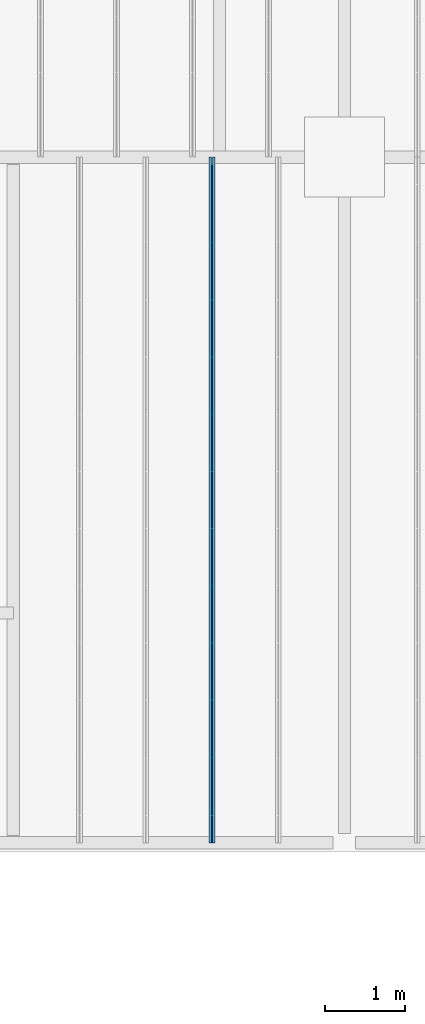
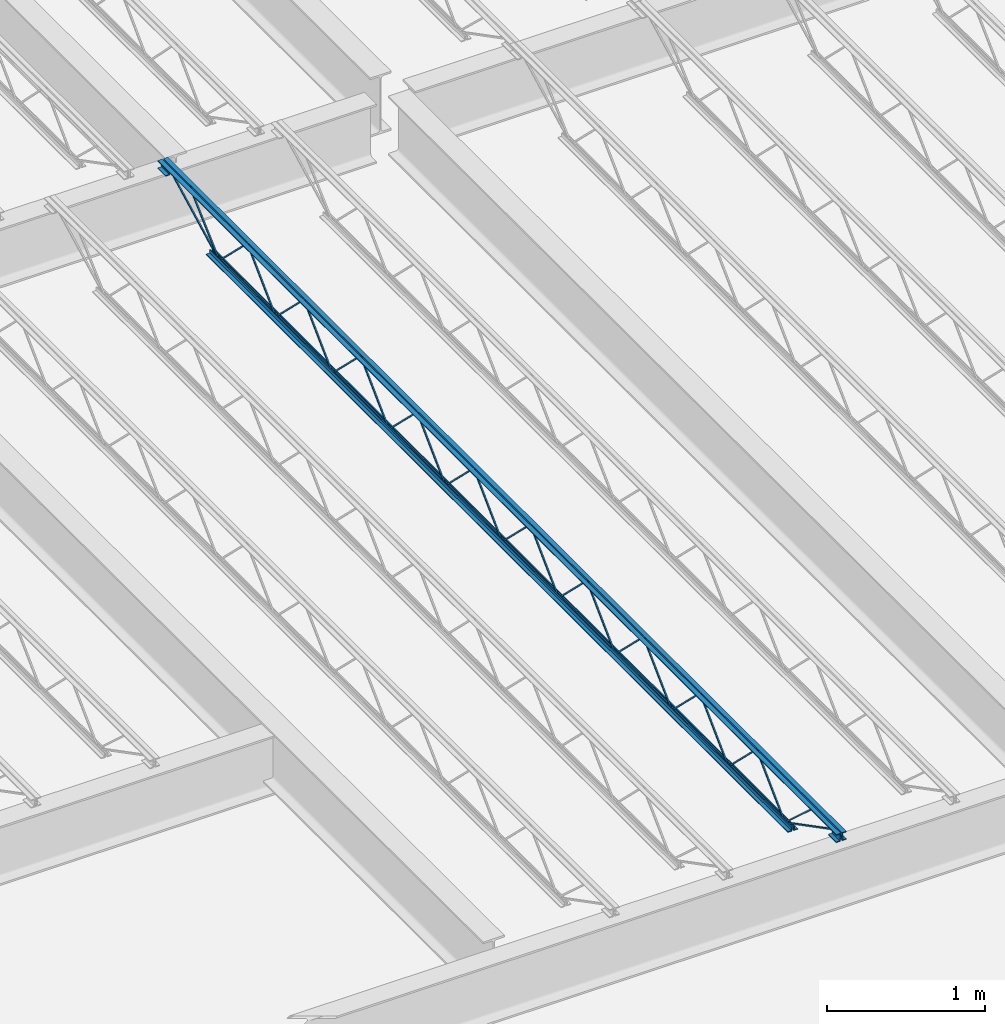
# One storey, part 30 of 75: 1 beam.
"""IFC2X3 building model written with IfcOpenShell, lengths in metres."""

from ifc_helpers import new_model, entity, si_unit, converted_unit, frame, origin, place, context, project, spatial, face_set, surface_model, element, save


model = new_model("IFC2X3")

# Units and contexts
model_context = context("Model", 3, precision=1e-09, world=origin())
plan_context = context("Plan", 3, precision=1e-09, world=origin())
ifc_project = project(units=[si_unit("LENGTHUNIT", "METRE"), si_unit("AREAUNIT", "SQUARE_METRE"), si_unit("VOLUMEUNIT", "CUBIC_METRE"), converted_unit("PLANEANGLEUNIT", "DEGREE", entity("IfcRatioMeasure", 0.01745329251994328), si_unit("PLANEANGLEUNIT", "RADIAN"), dimensions=[0, 0, 0, 0, 0, 0, 0]), si_unit("TIMEUNIT", "SECOND")], contexts=[model_context, plan_context])

# Site, building, storey
site_placement = place(None, origin())
site = spatial("IfcSite", under=ifc_project, at=site_placement, Name="Default", CompositionType="ELEMENT")
building_placement = place(site_placement, origin())
building = spatial("IfcBuilding", under=site, at=building_placement, CompositionType="ELEMENT")
storey_placement = place(building_placement, origin())
storey = spatial("IfcBuildingStorey", under=building, at=storey_placement, Name="First Floor", CompositionType="ELEMENT", Elevation=-3.531500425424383e-13)

# Beam
beam_placement = place(storey_placement, frame((-8.971973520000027, 10.03999999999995, 4.112000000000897)))
element("IfcBeam", 1, at=beam_placement, inside=storey, Name="M_K-Series Bar Joist-Rod Web:14K1:14K1", ObjectType="M_K-Series Bar Joist-Rod Web:14K1", context=model_context, shape_type="SurfaceModel", body=[
    surface_model("IfcFaceBasedSurfaceModel", [(0.0415000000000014, 6.428799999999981, 0.01110000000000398), (0.03200000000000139, 6.428799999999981, 0.01110000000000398), (0.03200000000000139, 6.428799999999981, 0.001600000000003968), (0.0415000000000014, 6.428799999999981, 0.001600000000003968), (0.03200000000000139, 6.430038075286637, 0.01110000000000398), (0.0415000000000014, 6.430038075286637, 0.01110000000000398), (0.03200000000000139, 6.433911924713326, 0.001600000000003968), (0.03200000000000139, 6.784861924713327, 0.3449000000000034), (0.03200000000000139, 6.78733807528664, 0.3449000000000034), (0.03200000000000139, 7.138288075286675, 0.001600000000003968), (0.03200000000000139, 7.143399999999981, 0.001600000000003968), (0.03200000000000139, 7.143399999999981, 0.01110000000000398), (0.03200000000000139, 7.142161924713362, 0.01110000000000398), (0.03200000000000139, 6.791211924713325, 0.3544000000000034), (0.03200000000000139, 6.780988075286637, 0.3544000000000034), (0.0415000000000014, 6.433911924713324, 0.001600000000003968), (0.0415000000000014, 6.784861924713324, 0.3449000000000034), (0.0415000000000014, 6.787338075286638, 0.3449000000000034), (0.0415000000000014, 7.138288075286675, 0.001600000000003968), (0.0415000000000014, 7.143399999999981, 0.001600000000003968), (0.0415000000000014, 7.143399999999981, 0.01110000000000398), (0.0415000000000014, 7.142161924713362, 0.01110000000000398), (0.0415000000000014, 6.791211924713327, 0.3544000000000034), (0.0415000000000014, 6.780988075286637, 0.3544000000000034), (0.0415000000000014, 5.714199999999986, 0.01110000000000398), (0.03200000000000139, 5.714199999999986, 0.01110000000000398), (0.03200000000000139, 5.714199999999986, 0.001600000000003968), (0.0415000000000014, 5.714199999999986, 0.001600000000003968), (0.03200000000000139, 5.715438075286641, 0.01110000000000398), (0.0415000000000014, 5.715438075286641, 0.01110000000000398), (0.03200000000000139, 5.719311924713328, 0.001600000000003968), (0.03200000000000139, 6.070261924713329, 0.3449000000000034), (0.03200000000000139, 6.072738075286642, 0.3449000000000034), (0.03200000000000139, 6.423688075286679, 0.001600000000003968), (0.03200000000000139, 6.428799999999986, 0.001600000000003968), (0.03200000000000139, 6.428799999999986, 0.01110000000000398), (0.03200000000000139, 6.427561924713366, 0.01110000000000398), (0.03200000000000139, 6.076611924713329, 0.3544000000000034), (0.03200000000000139, 6.066388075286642, 0.3544000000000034), (0.0415000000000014, 5.719311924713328, 0.001600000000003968), (0.0415000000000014, 6.070261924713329, 0.3449000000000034), (0.0415000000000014, 6.072738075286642, 0.3449000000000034), (0.0415000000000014, 6.423688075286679, 0.001600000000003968), (0.0415000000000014, 6.428799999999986, 0.001600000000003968), (0.0415000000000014, 6.428799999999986, 0.01110000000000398), (0.0415000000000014, 6.427561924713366, 0.01110000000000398), (0.0415000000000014, 6.076611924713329, 0.3544000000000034), (0.0415000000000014, 6.066388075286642, 0.3544000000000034), (0.0415000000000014, 4.999599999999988, 0.01110000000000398), (0.03200000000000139, 4.999599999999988, 0.01110000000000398), (0.03200000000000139, 4.999599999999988, 0.001600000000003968), (0.0415000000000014, 4.999599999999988, 0.001600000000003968), (0.03200000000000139, 5.000838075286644, 0.01110000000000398), (0.0415000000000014, 5.000838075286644, 0.01110000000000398), (0.03200000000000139, 5.00471192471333, 0.001600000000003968), (0.03200000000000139, 5.35566192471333, 0.3449000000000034), (0.03200000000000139, 5.358138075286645, 0.3449000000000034), (0.03200000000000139, 5.709088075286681, 0.001600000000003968), (0.03200000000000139, 5.714199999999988, 0.001600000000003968), (0.03200000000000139, 5.714199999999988, 0.01110000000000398), (0.03200000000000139, 5.712961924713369, 0.01110000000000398), (0.03200000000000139, 5.362011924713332, 0.3544000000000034), (0.03200000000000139, 5.351788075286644, 0.3544000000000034), (0.0415000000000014, 5.00471192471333, 0.001600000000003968), (0.0415000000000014, 5.35566192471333, 0.3449000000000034), (0.0415000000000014, 5.358138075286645, 0.3449000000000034), (0.0415000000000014, 5.709088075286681, 0.001600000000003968), (0.0415000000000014, 5.714199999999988, 0.001600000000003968), (0.0415000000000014, 5.714199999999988, 0.01110000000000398), (0.0415000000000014, 5.712961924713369, 0.01110000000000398), (0.0415000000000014, 5.362011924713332, 0.3544000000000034), (0.0415000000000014, 5.351788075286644, 0.3544000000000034), (0.0415000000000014, 4.28499999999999, 0.01110000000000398), (0.03200000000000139, 4.28499999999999, 0.01110000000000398), (0.03200000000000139, 4.28499999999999, 0.001600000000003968), (0.0415000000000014, 4.28499999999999, 0.001600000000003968), (0.03200000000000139, 4.286238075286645, 0.01110000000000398), (0.0415000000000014, 4.286238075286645, 0.01110000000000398), (0.03200000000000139, 4.290111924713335, 0.001600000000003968), (0.03200000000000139, 4.641061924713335, 0.3449000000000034), (0.03200000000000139, 4.643538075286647, 0.3449000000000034), (0.03200000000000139, 4.994488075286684, 0.001600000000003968), (0.03200000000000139, 4.999599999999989, 0.001600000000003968), (0.03200000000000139, 4.999599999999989, 0.01110000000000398), (0.03200000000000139, 4.998361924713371, 0.01110000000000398), (0.03200000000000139, 4.647411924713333, 0.3544000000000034), (0.03200000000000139, 4.637188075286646, 0.3544000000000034), (0.0415000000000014, 4.290111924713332, 0.001600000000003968), (0.0415000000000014, 4.641061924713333, 0.3449000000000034), (0.0415000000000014, 4.643538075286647, 0.3449000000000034), (0.0415000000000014, 4.994488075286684, 0.001600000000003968), (0.0415000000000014, 4.999599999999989, 0.001600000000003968), (0.0415000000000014, 4.999599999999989, 0.01110000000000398), (0.0415000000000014, 4.998361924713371, 0.01110000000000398), (0.0415000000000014, 4.647411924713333, 0.3544000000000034), (0.0415000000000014, 4.637188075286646, 0.3544000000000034), (0.0415000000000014, 3.570399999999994, 0.01110000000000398), (0.03200000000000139, 3.570399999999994, 0.01110000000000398), (0.03200000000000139, 3.570399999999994, 0.001600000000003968), (0.0415000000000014, 3.570399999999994, 0.001600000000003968), (0.03200000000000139, 3.57163807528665, 0.01110000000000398), (0.0415000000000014, 3.57163807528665, 0.01110000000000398), (0.03200000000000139, 3.575511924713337, 0.001600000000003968), (0.03200000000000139, 3.926461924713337, 0.3449000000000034), (0.03200000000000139, 3.928938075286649, 0.3449000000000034), (0.03200000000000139, 4.279888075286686, 0.001600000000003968), (0.03200000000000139, 4.284999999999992, 0.001600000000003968), (0.03200000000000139, 4.284999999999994, 0.01110000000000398), (0.03200000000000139, 4.283761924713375, 0.01110000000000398), (0.03200000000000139, 3.932811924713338, 0.3544000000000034), (0.03200000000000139, 3.92258807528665, 0.3544000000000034), (0.0415000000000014, 3.575511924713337, 0.001600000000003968), (0.0415000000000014, 3.926461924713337, 0.3449000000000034), (0.0415000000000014, 3.928938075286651, 0.3449000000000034), (0.0415000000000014, 4.279888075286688, 0.001600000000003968), (0.0415000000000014, 4.284999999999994, 0.001600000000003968), (0.0415000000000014, 4.284999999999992, 0.01110000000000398), (0.0415000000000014, 4.283761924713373, 0.01110000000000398), (0.0415000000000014, 3.932811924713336, 0.3544000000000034), (0.0415000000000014, 3.92258807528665, 0.3544000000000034), (0.0415000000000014, 2.855799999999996, 0.01110000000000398), (0.03200000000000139, 2.855799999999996, 0.01110000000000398), (0.03200000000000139, 2.855799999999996, 0.001600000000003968), (0.0415000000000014, 2.855799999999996, 0.001600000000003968), (0.03200000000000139, 2.857038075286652, 0.01110000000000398), (0.0415000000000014, 2.857038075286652, 0.01110000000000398), (0.03200000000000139, 2.860911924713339, 0.001600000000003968), (0.03200000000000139, 3.21186192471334, 0.3449000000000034), (0.03200000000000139, 3.214338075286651, 0.3449000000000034), (0.03200000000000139, 3.565288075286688, 0.001600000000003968), (0.03200000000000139, 3.570399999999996, 0.01110000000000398), (0.03200000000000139, 3.569161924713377, 0.01110000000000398), (0.03200000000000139, 3.21821192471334, 0.3544000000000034), (0.03200000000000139, 3.207988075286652, 0.3544000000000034), (0.0415000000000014, 2.860911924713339, 0.001600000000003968), (0.0415000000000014, 3.21186192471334, 0.3449000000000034), (0.0415000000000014, 3.214338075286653, 0.3449000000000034), (0.0415000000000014, 3.56528807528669, 0.001600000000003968), (0.0415000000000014, 3.570399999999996, 0.001600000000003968), (0.0415000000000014, 3.569161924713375, 0.01110000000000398), (0.0415000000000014, 3.218211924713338, 0.3544000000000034), (0.0415000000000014, 3.207988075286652, 0.3544000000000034), (0.0415000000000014, 2.141199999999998, 0.01110000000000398), (0.03200000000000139, 2.141199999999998, 0.01110000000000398), (0.03200000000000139, 2.141199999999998, 0.001600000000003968), (0.0415000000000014, 2.141199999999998, 0.001600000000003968), (0.03200000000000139, 2.142438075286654, 0.01110000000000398), (0.0415000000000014, 2.142438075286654, 0.01110000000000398), (0.03200000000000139, 2.146311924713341, 0.001600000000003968), (0.03200000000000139, 2.497261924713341, 0.3449000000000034), (0.03200000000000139, 2.499738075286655, 0.3449000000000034), (0.03200000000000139, 2.85068807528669, 0.001600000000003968), (0.03200000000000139, 2.855799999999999, 0.001600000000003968), (0.03200000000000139, 2.855799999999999, 0.01110000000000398), (0.03200000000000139, 2.85456192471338, 0.01110000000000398), (0.03200000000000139, 2.503611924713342, 0.3544000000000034), (0.03200000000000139, 2.493388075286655, 0.3544000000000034), (0.0415000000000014, 2.146311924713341, 0.001600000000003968), (0.0415000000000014, 2.497261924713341, 0.3449000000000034), (0.0415000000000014, 2.499738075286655, 0.3449000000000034), (0.0415000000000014, 2.850688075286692, 0.001600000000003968), (0.0415000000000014, 2.855799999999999, 0.001600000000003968), (0.0415000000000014, 2.855799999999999, 0.01110000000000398), (0.0415000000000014, 2.85456192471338, 0.01110000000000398), (0.0415000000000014, 2.503611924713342, 0.3544000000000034), (0.0415000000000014, 2.493388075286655, 0.3544000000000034), (0.0415000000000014, 1.426600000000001, 0.01110000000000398), (0.03200000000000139, 1.426600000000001, 0.01110000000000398), (0.03200000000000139, 1.426600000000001, 0.001600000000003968), (0.0415000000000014, 1.426600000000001, 0.001600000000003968), (0.03200000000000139, 1.427838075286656, 0.01110000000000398), (0.0415000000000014, 1.427838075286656, 0.01110000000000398), (0.03200000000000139, 1.431711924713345, 0.001600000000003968), (0.03200000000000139, 1.782661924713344, 0.3449000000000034), (0.03200000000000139, 1.785138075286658, 0.3449000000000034), (0.03200000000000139, 2.136088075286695, 0.001600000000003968), (0.03200000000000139, 2.1412, 0.001600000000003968), (0.03200000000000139, 2.1412, 0.01110000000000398), (0.03200000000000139, 2.139961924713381, 0.01110000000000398), (0.03200000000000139, 1.789011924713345, 0.3544000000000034), (0.03200000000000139, 1.778788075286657, 0.3544000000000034), (0.0415000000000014, 1.431711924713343, 0.001600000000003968), (0.0415000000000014, 1.782661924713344, 0.3449000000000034), (0.0415000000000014, 1.785138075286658, 0.3449000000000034), (0.0415000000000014, 2.136088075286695, 0.001600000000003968), (0.0415000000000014, 2.1412, 0.001600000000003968), (0.0415000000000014, 2.1412, 0.01110000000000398), (0.0415000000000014, 2.139961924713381, 0.01110000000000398), (0.0415000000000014, 1.789011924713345, 0.3544000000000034), (0.0415000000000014, 1.778788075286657, 0.3544000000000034), (0.04150000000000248, 7.143399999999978, 0.01109999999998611), (0.03200000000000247, 7.143399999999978, 0.01109999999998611), (0.03200000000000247, 7.143399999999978, 0.0015999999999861), (0.04150000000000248, 7.143399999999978, 0.0015999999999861), (0.03200000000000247, 7.144638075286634, 0.01109999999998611), (0.04150000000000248, 7.144638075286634, 0.01109999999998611), (0.03200000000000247, 7.148511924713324, 0.0015999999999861), (0.03200000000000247, 7.499461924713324, 0.3448999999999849), (0.03200000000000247, 7.501938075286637, 0.3448999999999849), (0.03200000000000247, 7.852888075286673, 0.0015999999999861), (0.03200000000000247, 7.857999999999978, 0.0015999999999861), (0.03200000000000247, 7.857999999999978, 0.01109999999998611), (0.03200000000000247, 7.85676192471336, 0.01109999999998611), (0.03200000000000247, 7.505811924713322, 0.354399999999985), (0.03200000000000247, 7.495588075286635, 0.354399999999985), (0.04150000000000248, 7.148511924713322, 0.0015999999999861), (0.04150000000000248, 7.499461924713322, 0.3448999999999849), (0.04150000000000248, 7.501938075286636, 0.3448999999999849), (0.04150000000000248, 7.852888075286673, 0.0015999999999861), (0.04150000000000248, 7.857999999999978, 0.0015999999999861), (0.04150000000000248, 7.857999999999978, 0.01109999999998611), (0.04150000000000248, 7.85676192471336, 0.01109999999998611), (0.04150000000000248, 7.505811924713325, 0.354399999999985), (0.04150000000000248, 7.495588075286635, 0.354399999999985), (0.0415000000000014, 0.7120000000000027, 0.01110000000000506), (0.03200000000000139, 0.7120000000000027, 0.01110000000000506), (0.03200000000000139, 0.7120000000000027, 0.001600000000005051), (0.0415000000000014, 0.7120000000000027, 0.001600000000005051), (0.03200000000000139, 0.7132380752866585, 0.01110000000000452), (0.0415000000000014, 0.7132380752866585, 0.01110000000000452), (0.03200000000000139, 0.7171119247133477, 0.001600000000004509), (0.03200000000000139, 1.068061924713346, 0.3449000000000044), (0.03200000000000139, 1.07053807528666, 0.3449000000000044), (0.03200000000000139, 1.421488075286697, 0.001600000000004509), (0.03200000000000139, 1.426600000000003, 0.001600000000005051), (0.03200000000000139, 1.426600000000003, 0.01110000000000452), (0.03200000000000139, 1.425361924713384, 0.01110000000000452), (0.03200000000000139, 1.074411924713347, 0.3544000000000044), (0.03200000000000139, 1.064188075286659, 0.3544000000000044), (0.0415000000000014, 0.7171119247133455, 0.001600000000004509), (0.0415000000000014, 1.068061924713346, 0.3449000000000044), (0.0415000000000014, 1.07053807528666, 0.3449000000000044), (0.0415000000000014, 1.421488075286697, 0.001600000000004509), (0.0415000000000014, 1.426600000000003, 0.001600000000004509), (0.0415000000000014, 1.426600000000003, 0.01110000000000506), (0.0415000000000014, 1.425361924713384, 0.01110000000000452), (0.0415000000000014, 1.074411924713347, 0.3544000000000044), (0.0415000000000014, 1.064188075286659, 0.3544000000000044), (0.03200000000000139, 8.569999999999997, 0.3559999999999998), (0.0, 8.569999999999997, 0.3559999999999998), (0.0, 8.569999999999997, 0.349499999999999), (0.0255000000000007, 8.569999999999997, 0.349499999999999), (0.0255000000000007, 8.569999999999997, 0.3239999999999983), (0.03200000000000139, 8.569999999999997, 0.3239999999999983), (0.0415000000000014, 8.569999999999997, 0.3559999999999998), (0.0415000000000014, 8.569999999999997, 0.3239999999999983), (0.048000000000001, 8.569999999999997, 0.3239999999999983), (0.048000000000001, 8.569999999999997, 0.349499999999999), (0.0735000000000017, 8.569999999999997, 0.349499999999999), (0.0735000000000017, 8.569999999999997, 0.3559999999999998), (0.03200000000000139, 0.0, 0.3559999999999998), (0.0, 0.0, 0.3559999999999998), (0.0, 0.0, 0.349499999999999), (0.0255000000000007, 0.0, 0.349499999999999), (0.0255000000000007, 0.0, 0.3239999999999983), (0.03200000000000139, 0.0, 0.3239999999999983), (0.0415000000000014, 0.0, 0.3559999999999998), (0.0415000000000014, 0.0, 0.3239999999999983), (0.048000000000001, 0.0, 0.3239999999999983), (0.048000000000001, 0.0, 0.349499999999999), (0.0735000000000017, 0.0, 0.349499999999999), (0.0735000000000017, 0.0, 0.3559999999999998), (0.0415000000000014, 0.09999999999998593, 0.2924999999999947), (0.0735000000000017, 0.09999999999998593, 0.2924999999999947), (0.0735000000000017, 0.09999999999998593, 0.2989999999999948), (0.048000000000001, 0.09999999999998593, 0.2989999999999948), (0.048000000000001, 0.09999999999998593, 0.3239999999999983), (0.0415000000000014, 0.09999999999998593, 0.3239999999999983), (0.0, 0.09999999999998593, 0.2924999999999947), (0.03200000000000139, 0.09999999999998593, 0.2924999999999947), (0.03200000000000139, 0.09999999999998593, 0.3239999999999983), (0.02550000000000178, 0.09999999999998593, 0.3239999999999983), (0.02550000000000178, 0.09999999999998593, 0.2989999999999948), (0.0, 0.09999999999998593, 0.2989999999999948), (0.0415000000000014, 0.0, 0.2924999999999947), (0.0735000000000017, 0.0, 0.2924999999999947), (0.0735000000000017, 0.0, 0.2989999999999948), (0.048000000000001, 0.0, 0.2989999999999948), (0.0, 0.0, 0.2924999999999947), (0.03200000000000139, 0.0, 0.2924999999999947), (0.02550000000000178, 0.0, 0.3239999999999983), (0.02550000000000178, 0.0, 0.2989999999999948), (0.0, 0.0, 0.2989999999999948), (0.03200000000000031, 8.569999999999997, 0.2924999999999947), (0.03200000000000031, 8.569999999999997, 0.3239999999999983), (0.0255000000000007, 8.569999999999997, 0.2989999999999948), (0.0, 8.569999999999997, 0.2989999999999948), (0.0, 8.569999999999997, 0.2924999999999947), (0.04150000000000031, 8.569999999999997, 0.2924999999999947), (0.07350000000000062, 8.569999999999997, 0.2924999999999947), (0.07350000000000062, 8.569999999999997, 0.2989999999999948), (0.048000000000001, 8.569999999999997, 0.2989999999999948), (0.04150000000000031, 8.569999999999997, 0.3239999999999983), (0.03200000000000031, 8.469999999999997, 0.2924999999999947), (0.03200000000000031, 8.469999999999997, 0.3239999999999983), (0.0255000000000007, 8.469999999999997, 0.3239999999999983), (0.0255000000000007, 8.469999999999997, 0.2989999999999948), (0.0, 8.469999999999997, 0.2989999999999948), (0.0, 8.469999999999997, 0.2924999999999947), (0.04150000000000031, 8.469999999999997, 0.2924999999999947), (0.07350000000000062, 8.469999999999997, 0.2924999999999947), (0.07350000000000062, 8.469999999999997, 0.2989999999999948), (0.048000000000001, 8.469999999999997, 0.2989999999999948), (0.048000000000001, 8.469999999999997, 0.3239999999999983), (0.04150000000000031, 8.469999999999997, 0.3239999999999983), (0.03200000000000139, 7.958000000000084, 0.0), (0.03200000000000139, 7.958000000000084, 0.03199999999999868), (0.02550000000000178, 7.958000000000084, 0.03199999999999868), (0.02550000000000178, 7.958000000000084, 0.006499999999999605), (0.0, 7.958000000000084, 0.006499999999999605), (0.0, 7.958000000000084, 0.0), (0.0415000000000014, 7.958000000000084, 0.0), (0.0735000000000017, 7.958000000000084, 0.0), (0.0735000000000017, 7.958000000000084, 0.006499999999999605), (0.048000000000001, 7.958000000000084, 0.006499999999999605), (0.048000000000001, 7.958000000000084, 0.03199999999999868), (0.0415000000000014, 7.958000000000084, 0.03199999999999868), (0.03200000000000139, 0.6120000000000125, 0.0), (0.03200000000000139, 0.6120000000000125, 0.03199999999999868), (0.02550000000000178, 0.6120000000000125, 0.03199999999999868), (0.02550000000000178, 0.6120000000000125, 0.006499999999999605), (0.0, 0.6120000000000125, 0.006499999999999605), (0.0, 0.6120000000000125, 0.0), (0.0415000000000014, 0.6120000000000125, 0.0), (0.0735000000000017, 0.6120000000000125, 0.0), (0.0735000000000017, 0.6120000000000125, 0.006499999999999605), (0.048000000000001, 0.6120000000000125, 0.006499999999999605), (0.048000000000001, 0.6120000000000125, 0.03199999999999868), (0.0415000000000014, 0.6120000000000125, 0.03199999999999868), (0.0415000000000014, 0.7141882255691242, 0.01056594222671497), (0.03200000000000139, 0.7141882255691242, 0.01056594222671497), (0.03200000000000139, 0.7098117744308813, 0.002134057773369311), (0.0415000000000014, 0.7098117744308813, 0.002134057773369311), (0.0415000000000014, 0.101159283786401, 0.3287499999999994), (0.0415000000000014, 0.0, 0.3287499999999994), (0.0415000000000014, 0.0, 0.3192499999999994), (0.0415000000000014, 0.09884071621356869, 0.3192499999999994), (0.03200000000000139, 0.09884071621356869, 0.3192499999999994), (0.03200000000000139, 0.101159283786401, 0.3287499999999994), (0.03200000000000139, 0.0, 0.3287499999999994), (0.03200000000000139, 0.0, 0.3192499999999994), (0.0415000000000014, 0.3347428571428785, 0.341700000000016), (0.03200000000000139, 0.3347428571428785, 0.341700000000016), (0.03200000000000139, 0.3347428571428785, 0.332200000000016), (0.0415000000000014, 0.3347428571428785, 0.332200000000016), (0.03200000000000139, 0.3492758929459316, 0.341700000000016), (0.0415000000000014, 0.3492758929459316, 0.341700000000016), (0.03200000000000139, 0.3456098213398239, 0.332200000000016), (0.03200000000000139, 0.7088091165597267, 0.002831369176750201), (0.03200000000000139, 0.7151908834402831, 0.009868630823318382), (0.0415000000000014, 0.3456098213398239, 0.332200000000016), (0.0415000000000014, 0.7088091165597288, 0.002831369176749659), (0.0415000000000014, 0.7151908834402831, 0.009868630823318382), (0.0415000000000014, 8.472188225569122, 0.3197840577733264), (0.0415000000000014, 8.467811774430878, 0.3282159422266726), (0.03200000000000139, 8.467811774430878, 0.3282159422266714), (0.03200000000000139, 8.472188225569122, 0.3197840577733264), (0.0415000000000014, 7.860188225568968, 0.002134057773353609), (0.0415000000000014, 7.855811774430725, 0.01056594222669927), (0.03200000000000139, 7.855811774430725, 0.01056594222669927), (0.03200000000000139, 7.860188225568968, 0.002134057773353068), (0.0415000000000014, 8.233036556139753, 0.3461600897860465), (0.0415000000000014, 8.226592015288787, 0.3531399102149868), (0.03200000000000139, 8.226592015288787, 0.3531399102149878), (0.03200000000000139, 8.233036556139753, 0.3461600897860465), (0.0415000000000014, 7.861222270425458, 0.002860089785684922), (0.0415000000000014, 7.854777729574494, 0.009839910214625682), (0.03200000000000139, 7.854777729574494, 0.009839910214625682), (0.03200000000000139, 7.861222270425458, 0.002860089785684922)], [face_set([[[0, 1, 2, 3]], [[1, 4, 5, 0]], [[2, 6, 7, 8, 9, 10, 11, 12, 13, 14, 4, 1]], [[3, 2, 6, 15]], [[0, 3, 15, 16, 17, 18, 19, 20, 21, 22, 23, 5]], [[4, 5, 23, 14]], [[15, 16, 7, 6]], [[14, 13, 22, 23]], [[16, 7, 8, 17]], [[13, 12, 21, 22]], [[17, 8, 9, 18]], [[20, 11, 10, 19]], [[12, 11, 20, 21]], [[18, 9, 10, 19]]]), face_set([[[24, 25, 26, 27]], [[25, 28, 29, 24]], [[26, 30, 31, 32, 33, 34, 35, 36, 37, 38, 28, 25]], [[27, 26, 30, 39]], [[24, 27, 39, 40, 41, 42, 43, 44, 45, 46, 47, 29]], [[28, 29, 47, 38]], [[39, 40, 31, 30]], [[38, 37, 46, 47]], [[40, 31, 32, 41]], [[37, 36, 45, 46]], [[41, 32, 33, 42]], [[44, 35, 34, 43]], [[36, 35, 44, 45]], [[42, 33, 34, 43]]]), face_set([[[48, 49, 50, 51]], [[49, 52, 53, 48]], [[50, 54, 55, 56, 57, 58, 59, 60, 61, 62, 52, 49]], [[51, 50, 54, 63]], [[48, 51, 63, 64, 65, 66, 67, 68, 69, 70, 71, 53]], [[52, 53, 71, 62]], [[63, 64, 55, 54]], [[62, 61, 70, 71]], [[64, 55, 56, 65]], [[61, 60, 69, 70]], [[65, 56, 57, 66]], [[68, 59, 58, 67]], [[60, 59, 68, 69]], [[66, 57, 58, 67]]]), face_set([[[72, 73, 74, 75]], [[73, 76, 77, 72]], [[74, 78, 79, 80, 81, 82, 83, 84, 85, 86, 76, 73]], [[75, 74, 78, 87]], [[72, 75, 87, 88, 89, 90, 91, 92, 93, 94, 95, 77]], [[76, 77, 95, 86]], [[87, 88, 79, 78]], [[86, 85, 94, 95]], [[88, 79, 80, 89]], [[85, 84, 93, 94]], [[89, 80, 81, 90]], [[92, 83, 82, 91]], [[84, 83, 92, 93]], [[90, 81, 82, 91]]]), face_set([[[96, 97, 98, 99]], [[97, 100, 101, 96]], [[98, 102, 103, 104, 105, 106, 107, 108, 109, 110, 100, 97]], [[99, 98, 102, 111]], [[96, 99, 111, 112, 113, 114, 115, 116, 117, 118, 119, 101]], [[100, 101, 119, 110]], [[111, 112, 103, 102]], [[110, 109, 118, 119]], [[112, 103, 104, 113]], [[109, 108, 117, 118]], [[113, 104, 105, 114]], [[116, 107, 106, 115]], [[108, 107, 116, 117]], [[114, 105, 106, 115]]]), face_set([[[120, 121, 122, 123]], [[121, 124, 125, 120]], [[122, 126, 127, 128, 129, 98, 130, 131, 132, 133, 124, 121]], [[123, 122, 126, 134]], [[120, 123, 134, 135, 136, 137, 138, 96, 139, 140, 141, 125]], [[124, 125, 141, 133]], [[134, 135, 127, 126]], [[133, 132, 140, 141]], [[135, 127, 128, 136]], [[132, 131, 139, 140]], [[136, 128, 129, 137]], [[96, 130, 98, 138]], [[131, 130, 96, 139]], [[137, 129, 98, 138]]]), face_set([[[142, 143, 144, 145]], [[143, 146, 147, 142]], [[144, 148, 149, 150, 151, 152, 153, 154, 155, 156, 146, 143]], [[145, 144, 148, 157]], [[142, 145, 157, 158, 159, 160, 161, 162, 163, 164, 165, 147]], [[146, 147, 165, 156]], [[157, 158, 149, 148]], [[156, 155, 164, 165]], [[158, 149, 150, 159]], [[155, 154, 163, 164]], [[159, 150, 151, 160]], [[162, 153, 152, 161]], [[154, 153, 162, 163]], [[160, 151, 152, 161]]]), face_set([[[166, 167, 168, 169]], [[167, 170, 171, 166]], [[168, 172, 173, 174, 175, 176, 177, 178, 179, 180, 170, 167]], [[169, 168, 172, 181]], [[166, 169, 181, 182, 183, 184, 185, 186, 187, 188, 189, 171]], [[170, 171, 189, 180]], [[181, 182, 173, 172]], [[180, 179, 188, 189]], [[182, 173, 174, 183]], [[179, 178, 187, 188]], [[183, 174, 175, 184]], [[186, 177, 176, 185]], [[178, 177, 186, 187]], [[184, 175, 176, 185]]]), face_set([[[190, 191, 192, 193]], [[191, 194, 195, 190]], [[192, 196, 197, 198, 199, 200, 201, 202, 203, 204, 194, 191]], [[193, 192, 196, 205]], [[190, 193, 205, 206, 207, 208, 209, 210, 211, 212, 213, 195]], [[194, 195, 213, 204]], [[205, 206, 197, 196]], [[204, 203, 212, 213]], [[206, 197, 198, 207]], [[203, 202, 211, 212]], [[207, 198, 199, 208]], [[210, 201, 200, 209]], [[202, 201, 210, 211]], [[208, 199, 200, 209]]]), face_set([[[214, 215, 216, 217]], [[215, 218, 219, 214]], [[216, 220, 221, 222, 223, 224, 225, 226, 227, 228, 218, 215]], [[217, 216, 220, 229]], [[214, 217, 229, 230, 231, 232, 233, 234, 235, 236, 237, 219]], [[218, 219, 237, 228]], [[229, 230, 221, 220]], [[228, 227, 236, 237]], [[230, 221, 222, 231]], [[227, 226, 235, 236]], [[231, 222, 223, 232]], [[234, 225, 224, 233]], [[226, 225, 234, 235]], [[232, 223, 224, 233]]]), face_set([[[238, 239, 240, 241, 242, 243]], [[244, 245, 246, 247, 248, 249]], [[250, 251, 252, 253, 254, 255]], [[256, 257, 258, 259, 260, 261]], [[243, 238, 250, 255]], [[242, 243, 255, 254]], [[241, 253, 254, 242]], [[240, 241, 253, 252]], [[239, 251, 252, 240]], [[238, 250, 251, 239]], [[249, 261, 256, 244]], [[248, 249, 261, 260]], [[247, 248, 260, 259]], [[246, 247, 259, 258]], [[245, 246, 258, 257]], [[244, 256, 257, 245]]]), face_set([[[262, 263, 264, 265, 266, 267]], [[268, 269, 270, 271, 272, 273]], [[274, 275, 276, 277, 258, 257]], [[278, 279, 255, 280, 281, 282]], [[267, 257, 274, 262]], [[266, 258, 257, 267]], [[265, 266, 258, 277]], [[264, 276, 277, 265]], [[263, 264, 276, 275]], [[262, 263, 275, 274]], [[273, 282, 278, 268]], [[272, 281, 282, 273]], [[271, 280, 281, 272]], [[270, 255, 280, 271]], [[269, 270, 255, 279]], [[268, 269, 279, 278]]]), face_set([[[283, 284, 242, 285, 286, 287]], [[288, 289, 290, 291, 246, 292]], [[293, 294, 295, 296, 297, 298]], [[299, 300, 301, 302, 303, 304]], [[287, 283, 293, 298]], [[286, 297, 298, 287]], [[285, 296, 297, 286]], [[242, 295, 296, 285]], [[284, 294, 295, 242]], [[283, 284, 294, 293]], [[292, 304, 299, 288]], [[246, 303, 304, 292]], [[291, 246, 303, 302]], [[290, 301, 302, 291]], [[289, 290, 301, 300]], [[288, 289, 300, 299]]]), face_set([[[305, 306, 307, 308, 309, 310]], [[311, 312, 313, 314, 315, 316]], [[317, 318, 319, 320, 321, 322]], [[323, 324, 325, 326, 327, 328]], [[310, 305, 317, 322]], [[309, 321, 322, 310]], [[308, 320, 321, 309]], [[307, 319, 320, 308]], [[306, 318, 319, 307]], [[305, 306, 318, 317]], [[316, 328, 323, 311]], [[315, 327, 328, 316]], [[314, 315, 327, 326]], [[313, 325, 326, 314]], [[312, 313, 325, 324]], [[311, 312, 324, 323]]]), face_set([[[329, 330, 331, 332]], [[332, 329, 333, 334, 335, 336]], [[331, 332, 336, 337]], [[330, 338, 339, 340, 337, 331]], [[329, 333, 338, 330]], [[334, 339, 340, 335]], [[337, 336, 335, 340]], [[333, 334, 339, 338]]]), face_set([[[341, 342, 343, 344]], [[342, 345, 346, 341]], [[343, 347, 348, 349, 345, 342]], [[344, 343, 347, 350]], [[341, 344, 350, 351, 352, 346]], [[352, 349, 348, 351]], [[345, 349, 352, 346]], [[350, 347, 348, 351]]]), face_set([[[353, 354, 355, 356]], [[357, 358, 359, 360]], [[356, 360, 357, 353]], [[355, 359, 360, 356]], [[354, 355, 359, 358]], [[353, 354, 358, 357]]]), face_set([[[361, 362, 363, 364]], [[365, 366, 367, 368]], [[364, 368, 365, 361]], [[363, 367, 368, 364]], [[362, 363, 367, 366]], [[361, 362, 366, 365]]])]),
])

save(model, "model.ifc")
